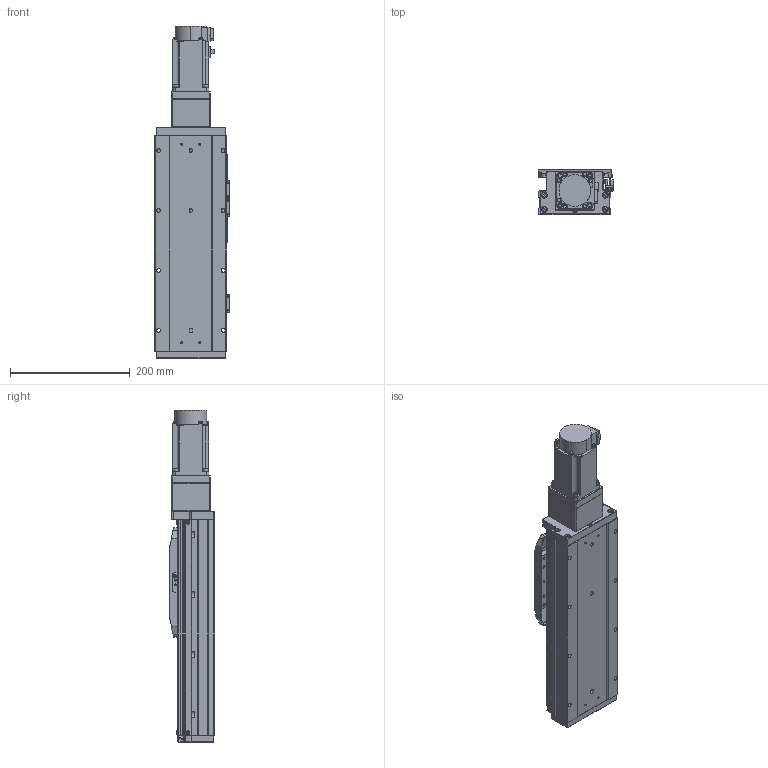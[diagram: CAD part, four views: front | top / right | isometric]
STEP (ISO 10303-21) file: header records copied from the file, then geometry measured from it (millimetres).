
FILE_DESCRIPTION (( 'STEP AP203' ), '1' );
FILE_NAME ('GTH12-150-BC-M40-C4.step', '2022-09-23T01:13:41', ( '微软用户' ), ( '微软中国' ), 'SwSTEP 2.0', 'SolidWorks 2020', '' );
FILE_SCHEMA (( 'CONFIG_CONTROL_DESIGN' ));
Length unit declared in the file: millimetre
Products named in the file (19): GTH80-028; CTHA86-027; GTH120-004; GTH50-023; hg-kn43j_-s100_; GTH120-013; GTH50-024; GTH12-150-BC-M40-C4; GBT 70.1-M3℅6; GBT96.1-2002 3×0.8; GBT 70.1-M5×16; BTH-M3X5X6; GTH120-001_150; GBT 70.3-M3℅8; CTHA86-006-1_CTHA86-006-2; GTH120-003; GTH80-022; CTHA86-013; GTH120-006
Assembly tree (62 placements, depth 2):
  GTH12-150-BC-M40-C4
    GTH120-001_150
    GTH120-003
    GTH120-006
    GTH120-004
    GTH120-013
    GBT 70.1-M3℅6  x14
    GBT 70.1-M5×16  x10
    GBT 70.3-M3℅8  x6
    GTH80-022
    GTH80-028  x2
    GTH50-023  x3
    GTH50-024  x3
    GBT96.1-2002 3×0.8  x6
    BTH-M3X5X6  x8
    CTHA86-006-1_CTHA86-006-2
    CTHA86-013
    CTHA86-027
    hg-kn43j_-s100_
Bounding box: 125.7 x 76 x 553.7 mm (x, y, z)
Volume: 3423463.8 mm3; surface area: 401529.9 mm2
Topology: 64 solids, 64 shells, 2349 faces, 5408 edges, 3291 vertices
Faces by surface type: plane 1216, cylinder 644, cone 311, torus 170, sphere 8
Entity records: 40709 total; most frequent: DIRECTION 6758, CARTESIAN_POINT 6496, ORIENTED_EDGE 6198, EDGE_CURVE 3099, AXIS2_PLACEMENT_3D 2362, VECTOR 2034, LINE 2034, VERTEX_POINT 1950
